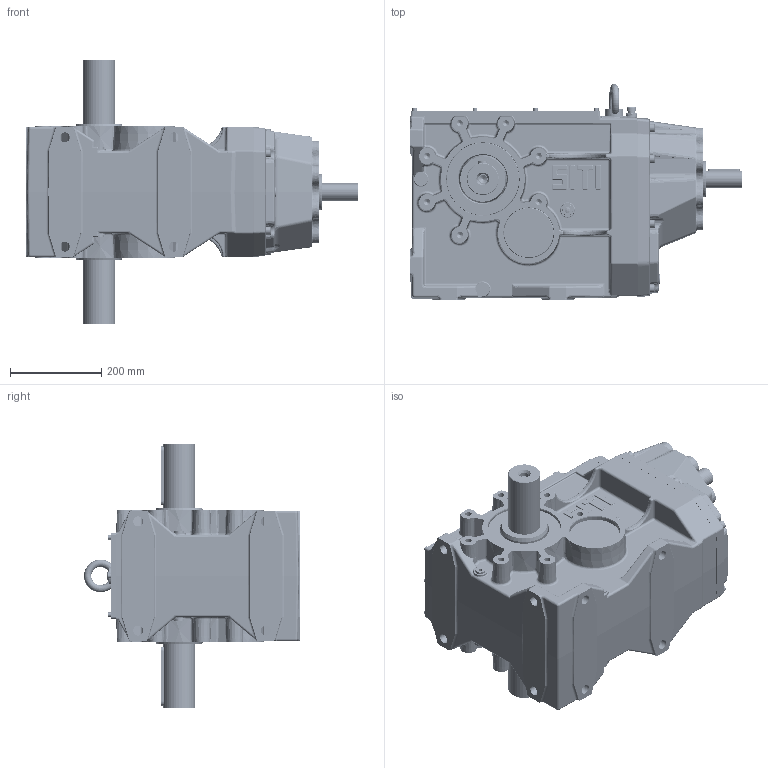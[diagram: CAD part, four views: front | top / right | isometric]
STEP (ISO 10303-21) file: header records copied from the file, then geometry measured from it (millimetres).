
FILE_DESCRIPTION((''),'2;1');
FILE_NAME('C:\Users\m.piscopiello.SITIRIDUTTORI\Desktop\3D x SITO\BH 140\BH_140 MD.stp','2013-05-10T12:28:02',('m.piscopiello'),(''),'Autodesk Inventor 2012','Autodesk Inventor 2012','');
FILE_SCHEMA(('CONFIG_CONTROL_DESIGN'));
Length unit declared in the file: millimetre
Products named in the file (1): BH_140 MD
Bounding box: 729 x 473.96 x 580 mm (x, y, z)
Volume: 19930435.9 mm3; surface area: 2683157.7 mm2
Topology: 49 solids, 51 shells, 3828 faces, 9170 edges, 5409 vertices
Faces by surface type: cylinder 1065, plane 998, bspline 897, torus 415, cone 314, sphere 139
Full cylindrical faces by diameter (mm): 3 x2, 4.917 x10, 6 x20, 6.4 x10, 6.75 x1, 7 x10, 8.4 x1, 10 x10, 10.106 x10, 12 x22, 12.5 x12, 13 x8, 13.835 x14, 14.95 x2, 16 x1, 16.6 x6, 17.294 x3, 17.835 x2, 18 x8, 19.5 x1, 20.5 x8, 21 x2, 22 x8, 25 x1, 26 x1, 30 x3, 38 x1, 40 x1, 70 x2, 71.938 x1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
Entity records: 149980 total; most frequent: CARTESIAN_POINT 65048, ORIENTED_EDGE 16792, DIRECTION 16085, EDGE_CURVE 8396, AXIS2_PLACEMENT_3D 6789, VERTEX_POINT 5210, EDGE_LOOP 4481, STYLED_ITEM 3876
